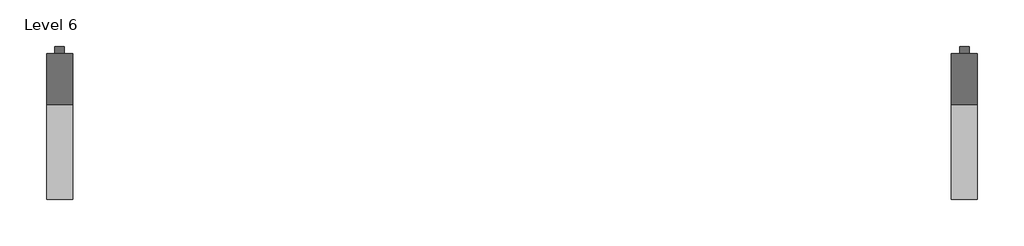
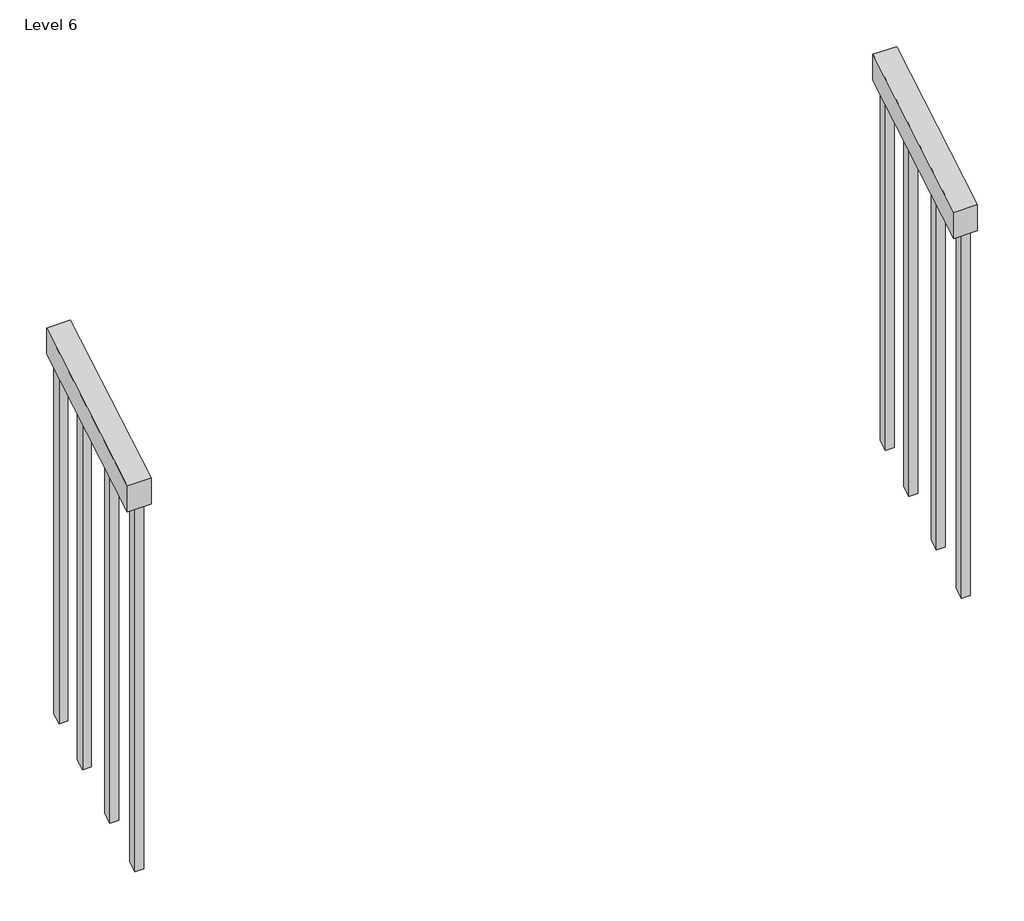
# One storey: 2 railings.
"""IFC4 building model written with IfcOpenShell, lengths in millimetres."""

from ifc_helpers import new_model, si_unit, origin, place, context, project, spatial, transform, mapped, element, save
from components import handrail_rectangular_3897df66, handrail_rectangular_bc91341e

model = new_model("IFC4")

# Units and contexts
model_context = context("Model", 3, world=origin())
ifc_project = project(units=[si_unit("LENGTHUNIT", "METRE", prefix="MILLI")], contexts=[model_context])

# Site, building, storey
site = spatial("IfcSite", under=ifc_project)
building = spatial("IfcBuilding", under=site)
storey = spatial("IfcBuildingStorey", under=building, Name="Level 6", Elevation=-300.0)

# Railings
placement = place(None, origin())
handrail_rectangular_shape = handrail_rectangular_3897df66(model_context)
element("IfcRailing", 1, ObjectType="Handrail - Rectangular", at=placement, inside=storey, context=model_context, shape_type="MappedRepresentation", body=[
    mapped(handrail_rectangular_shape, transform((0.0, 0.0, 0.0), x_axis=(1.0, 0.0, 0.0), y_axis=(0.0, 1.0, 0.0), z_axis=(0.0, 0.0, 1.0))),
])
handrail_rectangular_2_shape = handrail_rectangular_bc91341e(model_context)
element("IfcRailing", 2, ObjectType="Handrail - Rectangular", at=placement, inside=storey, context=model_context, shape_type="MappedRepresentation", body=[
    mapped(handrail_rectangular_2_shape, transform((0.0, 0.0, 0.0), x_axis=(1.0, 0.0, 0.0), y_axis=(0.0, 1.0, 0.0), z_axis=(0.0, 0.0, 1.0))),
])

save(model, "model.ifc")
